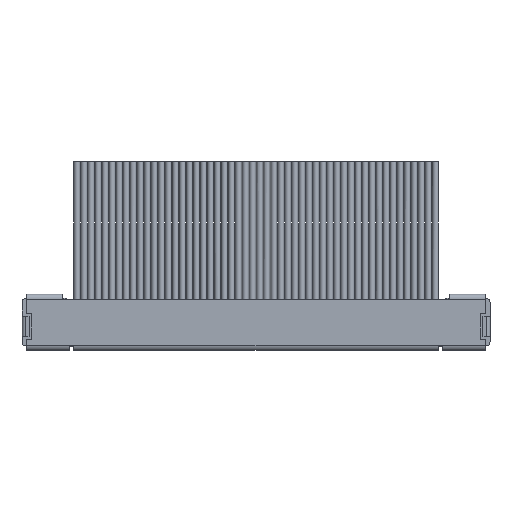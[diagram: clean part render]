
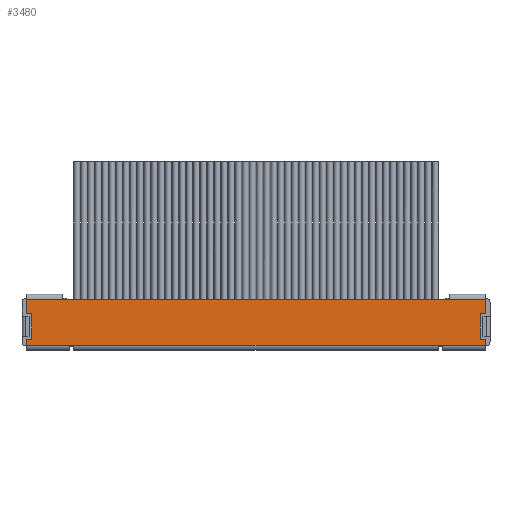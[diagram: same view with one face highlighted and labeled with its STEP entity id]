
A CAD part, top view. The second image highlights one B-rep face of the part: STEP entity #3480.
In plain terms, the highlighted planar face has unit normal (0, 0, 1) as drawn and (-1, 0, 0) by its records, which use the part's own axes.
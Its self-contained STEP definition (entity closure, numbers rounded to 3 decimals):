
#590=CARTESIAN_POINT('',(-0.36,-0.675,-6.74));
#600=VERTEX_POINT('',#590);
#1310=CARTESIAN_POINT('',(-0.36,-0.675,6.24));
#1320=VERTEX_POINT('',#1310);
#1730=CARTESIAN_POINT('',(-0.36,-0.675,6.24));
#1740=DIRECTION('',(0.,0.,-1.));
#1750=VECTOR('',#1740,1.);
#1760=LINE('',#1730,#1750);
#1770=EDGE_CURVE('',#1320,#600,#1760,.T.);
#1900=CARTESIAN_POINT('',(-0.36,-0.185,-1.75));
#1910=DIRECTION('',(-1.,-0.,-0.));
#1920=DIRECTION('',(0.,0.,-1.));
#1930=AXIS2_PLACEMENT_3D('',#1900,#1910,#1920);
#1940=PLANE('',#1930);
#1950=CARTESIAN_POINT('',(-0.36,-0.46,-8.425));
#1960=DIRECTION('',(0.,0.,1.));
#1970=VECTOR('',#1960,1.);
#1980=LINE('',#1950,#1970);
#1990=CARTESIAN_POINT('',(-0.36,-0.46,-8.425));
#2000=VERTEX_POINT('',#1990);
#2010=CARTESIAN_POINT('',(-0.36,-0.46,-8.22));
#2020=VERTEX_POINT('',#2010);
#2030=EDGE_CURVE('',#2000,#2020,#1980,.T.);
#2040=ORIENTED_EDGE('',*,*,#2030,.F.);
#2050=CARTESIAN_POINT('',(-0.36,0.46,-8.22));
#2060=DIRECTION('',(0.,-1.,0.));
#2070=VECTOR('',#2060,1.);
#2080=LINE('',#2050,#2070);
#2090=CARTESIAN_POINT('',(-0.36,0.46,-8.22));
#2100=VERTEX_POINT('',#2090);
#2110=EDGE_CURVE('',#2100,#2020,#2080,.T.);
#2120=ORIENTED_EDGE('',*,*,#2110,.T.);
#2130=CARTESIAN_POINT('',(-0.36,0.46,-8.22));
#2140=DIRECTION('',(0.,0.,-1.));
#2150=VECTOR('',#2140,1.);
#2160=LINE('',#2130,#2150);
#2170=CARTESIAN_POINT('',(-0.36,0.46,-8.425));
#2180=VERTEX_POINT('',#2170);
#2190=EDGE_CURVE('',#2100,#2180,#2160,.T.);
#2200=ORIENTED_EDGE('',*,*,#2190,.F.);
#2210=CARTESIAN_POINT('',(-0.36,0.46,-8.425));
#2220=DIRECTION('',(0.,1.,0.));
#2230=VECTOR('',#2220,1.);
#2240=LINE('',#2210,#2230);
#2250=CARTESIAN_POINT('',(-0.36,0.975,-8.425));
#2260=VERTEX_POINT('',#2250);
#2270=EDGE_CURVE('',#2180,#2260,#2240,.T.);
#2280=ORIENTED_EDGE('',*,*,#2270,.F.);
#2290=CARTESIAN_POINT('',(-0.36,0.975,-8.425));
#2300=DIRECTION('',(0.,0.,1.));
#2310=VECTOR('',#2300,1.);
#2320=LINE('',#2290,#2310);
#2330=CARTESIAN_POINT('',(-0.36,0.975,-7.135));
#2340=VERTEX_POINT('',#2330);
#2350=EDGE_CURVE('',#2260,#2340,#2320,.T.);
#2360=ORIENTED_EDGE('',*,*,#2350,.F.);
#2370=CARTESIAN_POINT('',(-0.36,0.975,-7.135));
#2380=DIRECTION('',(0.,-1.,0.));
#2390=VECTOR('',#2380,1.);
#2400=LINE('',#2370,#2390);
#2410=CARTESIAN_POINT('',(-0.36,0.945,-7.135));
#2420=VERTEX_POINT('',#2410);
#2430=EDGE_CURVE('',#2340,#2420,#2400,.T.);
#2440=ORIENTED_EDGE('',*,*,#2430,.F.);
#2450=CARTESIAN_POINT('',(-0.36,0.945,6.635));
#2460=DIRECTION('',(0.,0.,-1.));
#2470=VECTOR('',#2460,1.);
#2480=LINE('',#2450,#2470);
#2490=CARTESIAN_POINT('',(-0.36,0.945,6.635));
#2500=VERTEX_POINT('',#2490);
#2510=EDGE_CURVE('',#2500,#2420,#2480,.T.);
#2520=ORIENTED_EDGE('',*,*,#2510,.T.);
#2530=CARTESIAN_POINT('',(-0.36,0.975,6.635));
#2540=DIRECTION('',(0.,-1.,0.));
#2550=VECTOR('',#2540,1.);
#2560=LINE('',#2530,#2550);
#2570=CARTESIAN_POINT('',(-0.36,0.975,6.635));
#2580=VERTEX_POINT('',#2570);
#2590=EDGE_CURVE('',#2580,#2500,#2560,.T.);
#2600=ORIENTED_EDGE('',*,*,#2590,.T.);
#2610=CARTESIAN_POINT('',(-0.36,0.975,6.635));
#2620=DIRECTION('',(0.,0.,1.));
#2630=VECTOR('',#2620,1.);
#2640=LINE('',#2610,#2630);
#2650=CARTESIAN_POINT('',(-0.36,0.975,7.925));
#2660=VERTEX_POINT('',#2650);
#2670=EDGE_CURVE('',#2580,#2660,#2640,.T.);
#2680=ORIENTED_EDGE('',*,*,#2670,.F.);
#2690=CARTESIAN_POINT('',(-0.36,0.46,7.925));
#2700=DIRECTION('',(0.,1.,0.));
#2710=VECTOR('',#2700,1.);
#2720=LINE('',#2690,#2710);
#2730=CARTESIAN_POINT('',(-0.36,0.46,7.925));
#2740=VERTEX_POINT('',#2730);
#2750=EDGE_CURVE('',#2740,#2660,#2720,.T.);
#2760=ORIENTED_EDGE('',*,*,#2750,.T.);
#2770=CARTESIAN_POINT('',(-0.36,0.46,7.72));
#2780=DIRECTION('',(0.,0.,1.));
#2790=VECTOR('',#2780,1.);
#2800=LINE('',#2770,#2790);
#2810=CARTESIAN_POINT('',(-0.36,0.46,7.72));
#2820=VERTEX_POINT('',#2810);
#2830=EDGE_CURVE('',#2820,#2740,#2800,.T.);
#2840=ORIENTED_EDGE('',*,*,#2830,.T.);
#2850=CARTESIAN_POINT('',(-0.36,0.46,7.72));
#2860=DIRECTION('',(0.,-1.,0.));
#2870=VECTOR('',#2860,1.);
#2880=LINE('',#2850,#2870);
#2890=CARTESIAN_POINT('',(-0.36,-0.46,7.72));
#2900=VERTEX_POINT('',#2890);
#2910=EDGE_CURVE('',#2820,#2900,#2880,.T.);
#2920=ORIENTED_EDGE('',*,*,#2910,.F.);
#2930=CARTESIAN_POINT('',(-0.36,-0.46,7.925));
#2940=DIRECTION('',(0.,0.,-1.));
#2950=VECTOR('',#2940,1.);
#2960=LINE('',#2930,#2950);
#2970=CARTESIAN_POINT('',(-0.36,-0.46,7.925));
#2980=VERTEX_POINT('',#2970);
#2990=EDGE_CURVE('',#2980,#2900,#2960,.T.);
#3000=ORIENTED_EDGE('',*,*,#2990,.T.);
#3010=CARTESIAN_POINT('',(-0.36,-0.46,7.925));
#3020=DIRECTION('',(0.,-1.,0.));
#3030=VECTOR('',#3020,1.);
#3040=LINE('',#3010,#3030);
#3050=CARTESIAN_POINT('',(-0.36,-0.675,7.925));
#3060=VERTEX_POINT('',#3050);
#3070=EDGE_CURVE('',#2980,#3060,#3040,.T.);
#3080=ORIENTED_EDGE('',*,*,#3070,.F.);
#3090=CARTESIAN_POINT('',(-0.36,-0.675,7.925));
#3100=DIRECTION('',(0.,0.,-1.));
#3110=VECTOR('',#3100,1.);
#3120=LINE('',#3090,#3110);
#3130=CARTESIAN_POINT('',(-0.36,-0.675,6.39));
#3140=VERTEX_POINT('',#3130);
#3150=EDGE_CURVE('',#3060,#3140,#3120,.T.);
#3160=ORIENTED_EDGE('',*,*,#3150,.F.);
#3170=CARTESIAN_POINT('',(-0.36,-0.675,6.24));
#3180=DIRECTION('',(0.,0.,1.));
#3190=VECTOR('',#3180,1.);
#3200=LINE('',#3170,#3190);
#3210=EDGE_CURVE('',#1320,#3140,#3200,.T.);
#3220=ORIENTED_EDGE('',*,*,#3210,.T.);
#3230=ORIENTED_EDGE('',*,*,#1770,.F.);
#3240=CARTESIAN_POINT('',(-0.36,-0.675,-6.89));
#3250=DIRECTION('',(0.,0.,1.));
#3260=VECTOR('',#3250,1.);
#3270=LINE('',#3240,#3260);
#3280=CARTESIAN_POINT('',(-0.36,-0.675,-6.89));
#3290=VERTEX_POINT('',#3280);
#3300=EDGE_CURVE('',#3290,#600,#3270,.T.);
#3310=ORIENTED_EDGE('',*,*,#3300,.T.);
#3320=CARTESIAN_POINT('',(-0.36,-0.675,-6.89));
#3330=DIRECTION('',(0.,0.,-1.));
#3340=VECTOR('',#3330,1.);
#3350=LINE('',#3320,#3340);
#3360=CARTESIAN_POINT('',(-0.36,-0.675,-8.425));
#3370=VERTEX_POINT('',#3360);
#3380=EDGE_CURVE('',#3290,#3370,#3350,.T.);
#3390=ORIENTED_EDGE('',*,*,#3380,.F.);
#3400=CARTESIAN_POINT('',(-0.36,-0.46,-8.425));
#3410=DIRECTION('',(0.,-1.,0.));
#3420=VECTOR('',#3410,1.);
#3430=LINE('',#3400,#3420);
#3440=EDGE_CURVE('',#2000,#3370,#3430,.T.);
#3450=ORIENTED_EDGE('',*,*,#3440,.T.);
#3460=EDGE_LOOP('',(#3450,#3390,#3310,#3230,#3220,#3160,#3080,#3000,
#2920,#2840,#2760,#2680,#2600,#2520,#2440,#2360,#2280,#2200,#2120,#2040)
);
#3470=FACE_OUTER_BOUND('',#3460,.T.);
#3480=ADVANCED_FACE('',(#3470),#1940,.T.);
